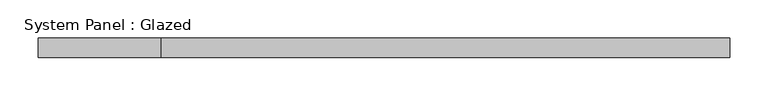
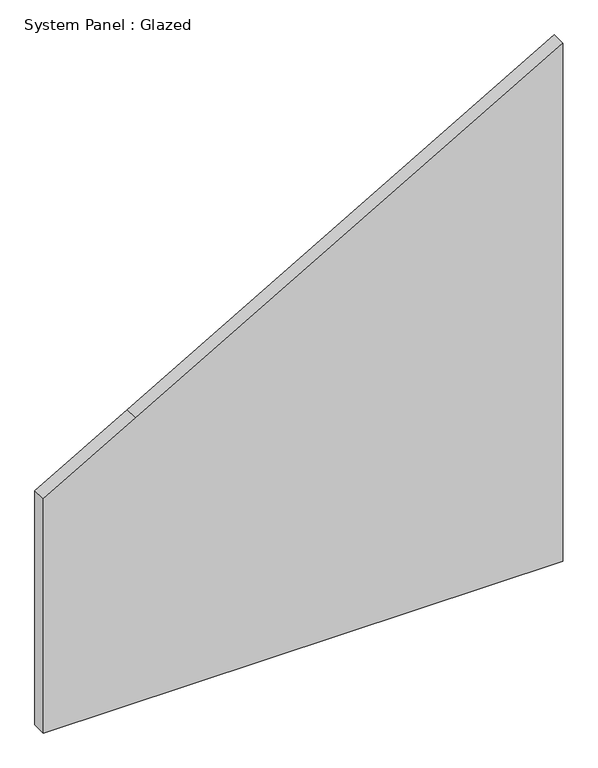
"""IFC4 building model written with IfcOpenShell, lengths in millimetres: plate geometry, System Panel : Glazed."""

from ifc_helpers import new_model, si_unit, frame, origin, place, context, project, spatial, polyline, outline, extrude, source, transform, mapped, element, save


def system_panel_glazed_5f384d99(model_context):
    return source(origin(), model_context, "Body", "SweptSolid", [
        extrude(outline(polyline([(0.0, -451.3791667), (0.0, 451.3791667), (577.85, 451.3791667), (951.3957171, 451.3791667), (522.8573869, -290.8709944), (430.1879504, -451.3791667), (0.0, -451.3791667)])), frame((0.0, -44.45, 0.0), z_axis=(0.0, 1.0, 0.0), x_axis=(0.0, 0.0, 1.0)), (0.0, 0.0, 1.0), 25.4),
    ])


if __name__ == "__main__":
    model = new_model("IFC4")
    model_context = context("Model", 3, world=origin())
    ifc_project = project(units=[si_unit("LENGTHUNIT", "METRE", prefix="MILLI")], contexts=[model_context])
    site = spatial("IfcSite", under=ifc_project)
    building = spatial("IfcBuilding", under=site)
    placement = place(None, origin())
    system_panel_glazed_shape = system_panel_glazed_5f384d99(model_context)
    element("IfcPlate", 1, ObjectType="System Panel : Glazed", at=placement, inside=building, context=model_context, shape_type="MappedRepresentation", body=[
        mapped(system_panel_glazed_shape, transform((0.0, 0.0, 0.0), x_axis=(1.0, 0.0, 0.0), y_axis=(0.0, 1.0, 0.0), z_axis=(0.0, 0.0, 1.0))),
    ])
    save(model, "model.ifc")
